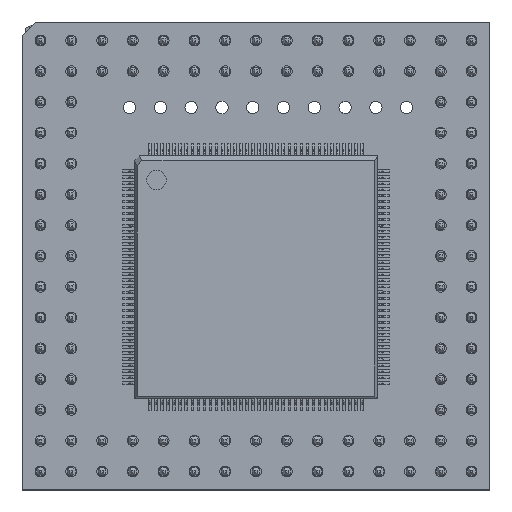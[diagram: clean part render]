
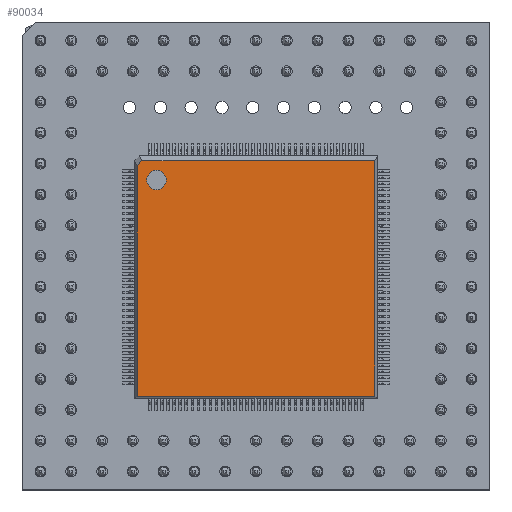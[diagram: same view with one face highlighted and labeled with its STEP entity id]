
A CAD part, top view. The second image highlights one B-rep face of the part: STEP entity #90034.
In plain terms, the highlighted planar face has unit normal (0, 0, 1).
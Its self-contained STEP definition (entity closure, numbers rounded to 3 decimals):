
#89777 = EDGE_CURVE('',#89778,#89780,#89782,.T.);
#89778 = VERTEX_POINT('',#89779);
#89779 = CARTESIAN_POINT('',(-7.41,8.02,1.6));
#89780 = VERTEX_POINT('',#89781);
#89781 = CARTESIAN_POINT('',(-9.01,8.02,1.6));
#89782 = CIRCLE('',#89783,0.8);
#89783 = AXIS2_PLACEMENT_3D('',#89784,#89785,#89786);
#89784 = CARTESIAN_POINT('',(-8.21,8.02,1.6));
#89785 = DIRECTION('',(0.,0.,-1.));
#89786 = DIRECTION('',(1.,0.,0.));
#90008 = VERTEX_POINT('',#90009);
#90009 = CARTESIAN_POINT('',(-9.413,9.62,1.6));
#90015 = EDGE_CURVE('',#90008,#90016,#90018,.T.);
#90016 = VERTEX_POINT('',#90017);
#90017 = CARTESIAN_POINT('',(9.81,9.62,1.6));
#90018 = LINE('',#90019,#90020);
#90019 = CARTESIAN_POINT('',(-9.413,9.62,1.6));
#90020 = VECTOR('',#90021,1.);
#90021 = DIRECTION('',(1.,0.,0.));
#90034 = ADVANCED_FACE('',(#90035,#90068),#90078,.T.);
#90035 = FACE_BOUND('',#90036,.T.);
#90036 = EDGE_LOOP('',(#90037,#90045,#90053,#90061,#90067));
#90037 = ORIENTED_EDGE('',*,*,#90038,.F.);
#90038 = EDGE_CURVE('',#90039,#90008,#90041,.T.);
#90039 = VERTEX_POINT('',#90040);
#90040 = CARTESIAN_POINT('',(-9.81,9.173,1.6));
#90041 = LINE('',#90042,#90043);
#90042 = CARTESIAN_POINT('',(-9.81,9.173,1.6));
#90043 = VECTOR('',#90044,1.);
#90044 = DIRECTION('',(0.664,0.747,0.));
#90045 = ORIENTED_EDGE('',*,*,#90046,.F.);
#90046 = EDGE_CURVE('',#90047,#90039,#90049,.T.);
#90047 = VERTEX_POINT('',#90048);
#90048 = CARTESIAN_POINT('',(-9.81,-9.81,1.6));
#90049 = LINE('',#90050,#90051);
#90050 = CARTESIAN_POINT('',(-9.81,-9.81,1.6));
#90051 = VECTOR('',#90052,1.);
#90052 = DIRECTION('',(0.,1.,0.));
#90053 = ORIENTED_EDGE('',*,*,#90054,.F.);
#90054 = EDGE_CURVE('',#90055,#90047,#90057,.T.);
#90055 = VERTEX_POINT('',#90056);
#90056 = CARTESIAN_POINT('',(9.81,-9.81,1.6));
#90057 = LINE('',#90058,#90059);
#90058 = CARTESIAN_POINT('',(9.81,-9.81,1.6));
#90059 = VECTOR('',#90060,1.);
#90060 = DIRECTION('',(-1.,0.,0.));
#90061 = ORIENTED_EDGE('',*,*,#90062,.F.);
#90062 = EDGE_CURVE('',#90016,#90055,#90063,.T.);
#90063 = LINE('',#90064,#90065);
#90064 = CARTESIAN_POINT('',(9.81,9.62,1.6));
#90065 = VECTOR('',#90066,1.);
#90066 = DIRECTION('',(0.,-1.,0.));
#90067 = ORIENTED_EDGE('',*,*,#90015,.F.);
#90068 = FACE_BOUND('',#90069,.T.);
#90069 = EDGE_LOOP('',(#90070,#90071));
#90070 = ORIENTED_EDGE('',*,*,#89777,.T.);
#90071 = ORIENTED_EDGE('',*,*,#90072,.T.);
#90072 = EDGE_CURVE('',#89780,#89778,#90073,.T.);
#90073 = CIRCLE('',#90074,0.8);
#90074 = AXIS2_PLACEMENT_3D('',#90075,#90076,#90077);
#90075 = CARTESIAN_POINT('',(-8.21,8.02,1.6));
#90076 = DIRECTION('',(0.,0.,-1.));
#90077 = DIRECTION('',(1.,0.,0.));
#90078 = PLANE('',#90079);
#90079 = AXIS2_PLACEMENT_3D('',#90080,#90081,#90082);
#90080 = CARTESIAN_POINT('',(-10.,10.,1.6));
#90081 = DIRECTION('',(0.,0.,1.));
#90082 = DIRECTION('',(1.,0.,0.));
